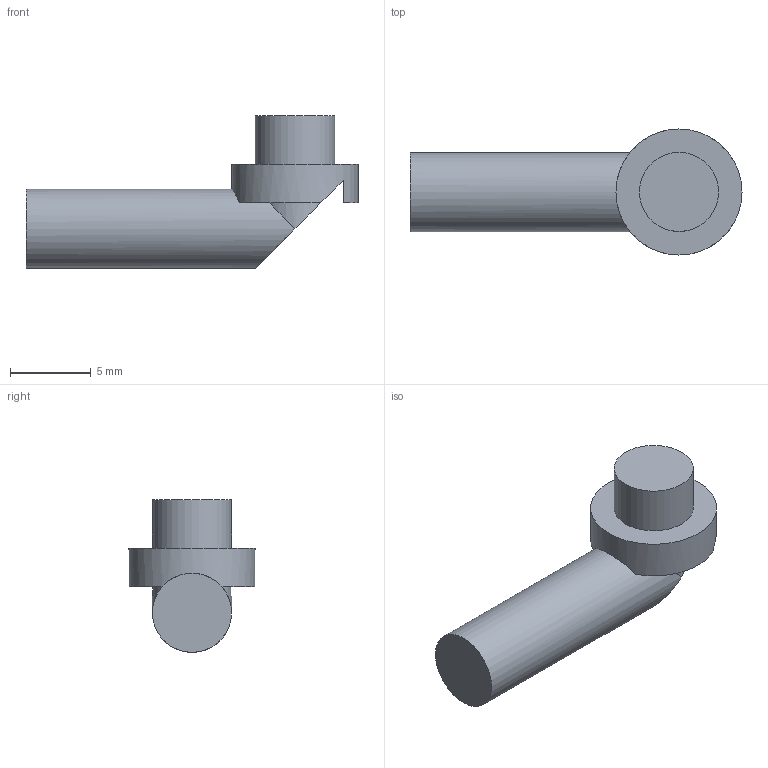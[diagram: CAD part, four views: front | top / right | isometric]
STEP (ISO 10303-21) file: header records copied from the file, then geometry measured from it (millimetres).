
FILE_DESCRIPTION(/* description */ (''),/* implementation_level */ '2;1');
FILE_NAME(/* name */ '08_Light_Guide_CLEAR.step',/* time_stamp */ '2026-09-16T19:15:03-07:00',/* author */ (''),/* organization */ (''),/* preprocessor_version */ 'ST-DEVELOPER v20.1',/* originating_system */ 'Autodesk Translation Framework v15.8.0.0',/* authorisation */ '');
FILE_SCHEMA (('AUTOMOTIVE_DESIGN { 1 0 10303 214 3 1 1 }'));
Length unit declared in the file: centimetre
Products named in the file (1): 2026-09-16-19-15-03-160
Bounding box: 20.55 x 7.8 x 9.45 mm (x, y, z)
Volume: 467.9 mm3; surface area: 457.3 mm2
Topology: 1 solids, 1 shells, 13 faces, 29 edges, 19 vertices
Faces by surface type: plane 8, cylinder 5
Full cylindrical faces by diameter (mm): 4.9 x2, 7.8 x1
Entity records: 421 total; most frequent: CARTESIAN_POINT 76, DIRECTION 71, ORIENTED_EDGE 58, AXIS2_PLACEMENT_3D 30, EDGE_CURVE 29, VERTEX_POINT 19, EDGE_LOOP 14, FACE_OUTER_BOUND 13
